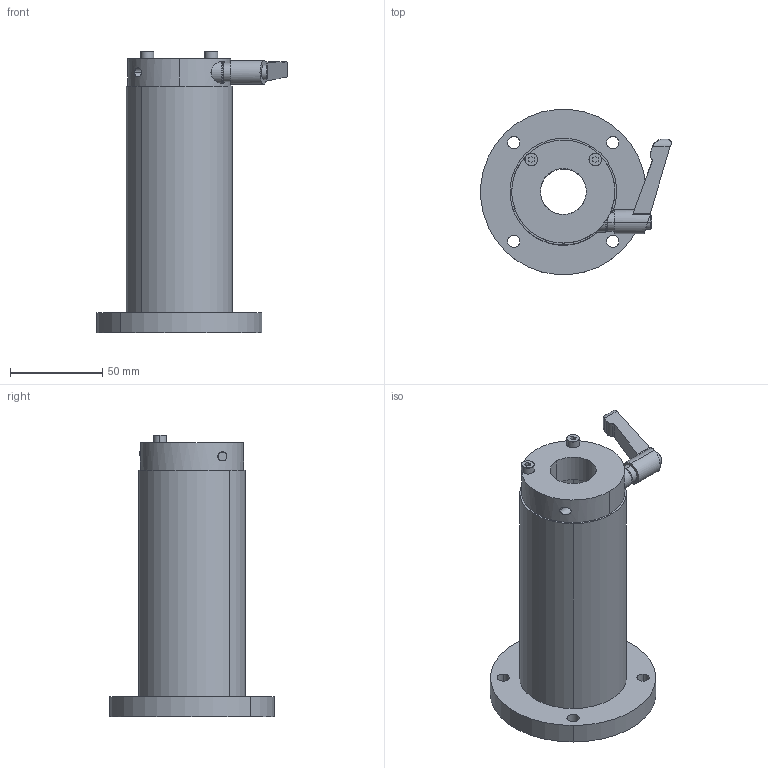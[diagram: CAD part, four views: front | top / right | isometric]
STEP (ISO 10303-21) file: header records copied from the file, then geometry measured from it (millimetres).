
FILE_DESCRIPTION (( 'STEP AP214' ), '1' );
FILE_NAME ('LFW25-C.STEP', '2023-06-27T01:53:32', ( '' ), ( '' ), 'SwSTEP 2.0', 'SolidWorks 2019', '' );
FILE_SCHEMA (( 'AUTOMOTIVE_DESIGN' ));
Length unit declared in the file: millimetre
Products named in the file (3): LFW25; “ÁSCK2515CO-S4.5; LFW25-C
Assembly tree (2 placements, depth 2):
  LFW25-C
    LFW25
    “ÁSCK2515CO-S4.5
Bounding box: 103.43 x 89.66 x 153 mm (x, y, z)
Volume: 350014 mm3; surface area: 67809.5 mm2
Topology: 3 solids, 8 shells, 191 faces, 488 edges, 306 vertices
Faces by surface type: cylinder 76, plane 57, bspline 39, cone 11, torus 8
Entity records: 8781 total; most frequent: CARTESIAN_POINT 1877, DIRECTION 1033, ORIENTED_EDGE 976, EDGE_CURVE 488, AXIS2_PLACEMENT_3D 432, VERTEX_POINT 306, CIRCLE 275, EDGE_LOOP 230
